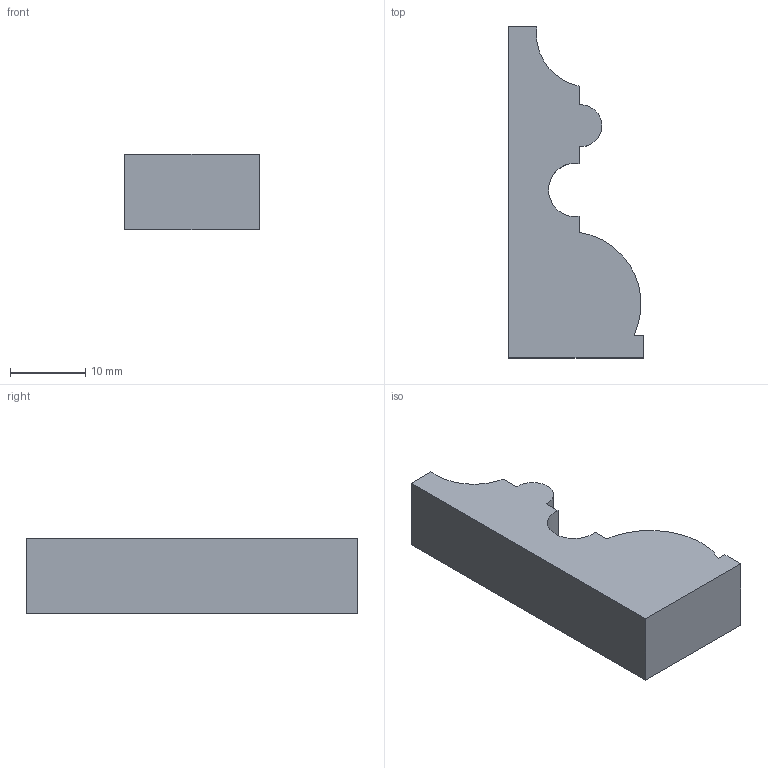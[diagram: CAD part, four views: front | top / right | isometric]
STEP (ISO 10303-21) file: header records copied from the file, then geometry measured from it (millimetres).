
FILE_DESCRIPTION (( 'STEP AP203' ), '1' );
FILE_NAME ('AB003FJ.STEP', '2024-02-16T17:22:42', ( '' ), ( '' ), 'SwSTEP 2.0', 'SolidWorks 2020', '' );
FILE_SCHEMA (( 'CONFIG_CONTROL_DESIGN' ));
Length unit declared in the file: millimetre
Products named in the file (1): AB003FJ
Bounding box: 17.89 x 44.13 x 10 mm (x, y, z)
Volume: 4856.9 mm3; surface area: 2242.1 mm2
Topology: 1 solids, 1 shells, 15 faces, 39 edges, 26 vertices
Faces by surface type: plane 11, cylinder 4
Entity records: 538 total; most frequent: CARTESIAN_POINT 81, DIRECTION 79, ORIENTED_EDGE 78, EDGE_CURVE 39, VECTOR 31, LINE 31, VERTEX_POINT 26, AXIS2_PLACEMENT_3D 24
